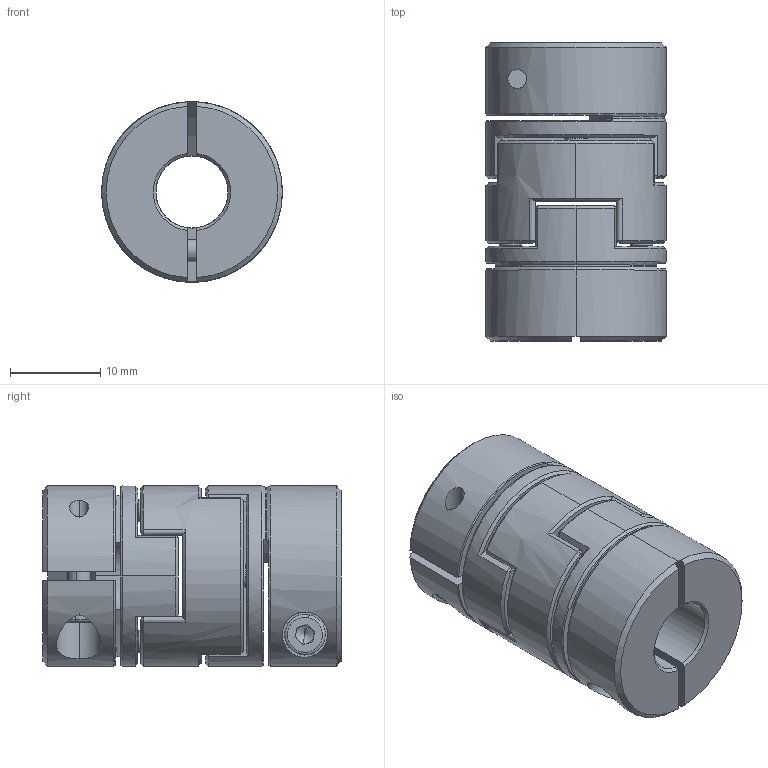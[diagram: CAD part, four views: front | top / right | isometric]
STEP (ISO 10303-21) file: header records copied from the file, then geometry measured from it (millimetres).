
FILE_DESCRIPTION (( 'STEP AP203' ), '1' );
FILE_NAME ('LZ-B-D20L33-8-8.STEP', '2021-10-29T05:40:24', ( '' ), ( '' ), 'SwSTEP 2.0', 'SolidWorks 2018', '' );
FILE_SCHEMA (( 'CONFIG_CONTROL_DESIGN' ));
Length unit declared in the file: millimetre
Products named in the file (1): LZ-B-D20L33-8-8
Bounding box: 20 x 33 x 20 mm (x, y, z)
Volume: 7951.1 mm3; surface area: 6094.5 mm2
Topology: 3 solids, 3 shells, 250 faces, 644 edges, 408 vertices
Faces by surface type: plane 114, cylinder 64, cone 42, bspline 26, torus 4
Entity records: 10383 total; most frequent: CARTESIAN_POINT 4489, ORIENTED_EDGE 1280, DIRECTION 1132, EDGE_CURVE 640, AXIS2_PLACEMENT_3D 437, VERTEX_POINT 408, EDGE_LOOP 276, LINE 258
